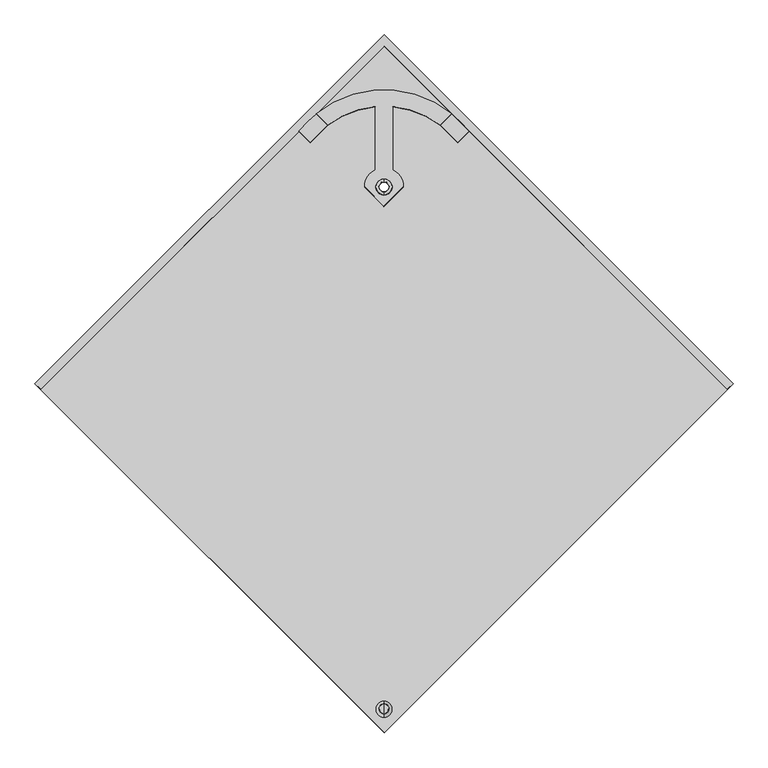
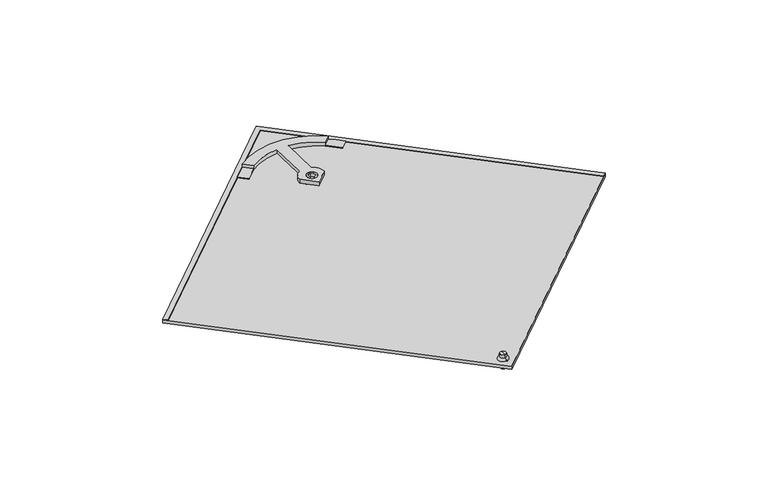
"""IFC4 building model written with IfcOpenShell, lengths in millimetres: proxy geometry, Roofing_Solar-Panels_SunStyle_Shingle-Sunstyle : Shingle Sunstyle - Black."""

from ifc_helpers import new_model, si_unit, point, frame, frame_2d, origin, place, context, project, spatial, polyline, circle_curve, ellipse_curve, trimmed, segment, composite_curve, outline, extrude, source, transform, mapped, element, save
from ifc_brep_helpers import plane_surface, cylinder_surface, revolved_surface, advanced_brep


def generic_models_2e27a9fd(model_context):
    return source(origin(), model_context, "Body", "SolidModel", [
        advanced_brep(
        [(-0.0003225, -496.9839711, 50.8520805), (-0.0003225, -483.6564991, 50.4055513), (-0.0003225, -484.393014, 28.4229328), (-0.0003225, -497.720486, 28.8694621), (-0.0003225, -502.4808867, 51.0362515), (-0.0003225, -478.1595835, 50.2213803), (-0.0003225, -497.4503018, 55.8664976), (-0.0003225, -482.8555807, 55.3775099), (-0.0003225, -489.8849219, 63.6215255), (-0.0003225, -482.5875613, 63.3770317), (-0.0003225, -497.1822824, 63.8660194), (-0.0003225, -491.05675, 28.6461975)],
        [
            (0, 1, circle_curve(frame((-0.0003225, -490.3202351, 50.6288159), z_axis=(0.0, -0.0334856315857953, -0.9994391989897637), x_axis=(0.0, 0.9994391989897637, -0.0334856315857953)), 6.6674751)),
            (1, 2),
            (2, 3, circle_curve(frame((-0.0003225, -491.05675, 28.6461975), z_axis=(0.0, 0.0334856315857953, 0.9994391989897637), x_axis=(0.0, 0.9994391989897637, -0.0334856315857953)), 6.6674751)),
            (3, 0),
            (1, 0, circle_curve(frame((-0.0003225, -490.3202351, 50.6288159), z_axis=(0.0, -0.0334856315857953, -0.9994391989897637), x_axis=(0.0, 0.9994391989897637, -0.0334856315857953)), 6.6674751)),
            (3, 2, circle_curve(frame((-0.0003225, -491.05675, 28.6461975), z_axis=(0.0, 0.0334856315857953, 0.9994391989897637), x_axis=(0.0, 0.9994391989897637, -0.0334856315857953)), 6.6674751)),
            (4, 5, circle_curve(frame((-0.0003225, -490.3202351, 50.6288159), z_axis=(0.0, -0.0334856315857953, -0.9994391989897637), x_axis=(0.0, 0.9994391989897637, -0.0334856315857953)), 12.1674751)),
            (5, 1),
            (0, 4),
            (5, 4, circle_curve(frame((-0.0003225, -490.3202351, 50.6288159), z_axis=(0.0, -0.0334856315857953, -0.9994391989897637), x_axis=(0.0, 0.9994391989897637, -0.0334856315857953)), 12.1674751)),
            (6, 7, circle_curve(frame((-0.0003225, -490.1529412, 55.6220038), z_axis=(0.0, -0.0334856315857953, -0.9994391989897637), x_axis=(0.0, 0.9994391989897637, -0.0334856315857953)), 7.3014552)),
            (7, 5, circle_curve(frame((-0.0003225, -483.2447474, 50.3065442), z_axis=(-1.0, 0.0, 0.0), x_axis=(0.0, -0.9998597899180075, 0.016745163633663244)), 5.0858769)),
            (4, 6, circle_curve(frame((-0.0003225, -497.4014264, 50.7808555), z_axis=(-1.0, 0.0, 0.0), x_axis=(0.0, 0.9987383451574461, -0.05021670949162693)), 5.0858769)),
            (7, 6, circle_curve(frame((-0.0003225, -490.1529412, 55.6220038), z_axis=(0.0, -0.0334856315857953, -0.9994391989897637), x_axis=(0.0, 0.9994391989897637, -0.0334856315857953)), 7.3014552)),
            (8, 9),
            (9, 10, circle_curve(frame((-0.0003225, -489.8849219, 63.6215255), z_axis=(0.0, 0.0334856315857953, 0.9994391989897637), x_axis=(0.0, 0.9994391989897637, -0.0334856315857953)), 7.3014552)),
            (10, 8),
            (10, 9, circle_curve(frame((-0.0003225, -489.8849219, 63.6215255), z_axis=(0.0, 0.0334856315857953, 0.9994391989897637), x_axis=(0.0, 0.9994391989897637, -0.0334856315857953)), 7.3014552)),
            (2, 11),
            (11, 3),
            (9, 7),
            (6, 10),
        ],
        [
            cylinder_surface(frame((-0.0003225, -489.8849219, 63.6215255), z_axis=(0.0, 0.0334856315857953, 0.9994391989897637), x_axis=(0.0, 0.9994391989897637, -0.0334856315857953)), 6.6674751),
            plane_surface(frame((-0.0003225, -490.3202351, 50.6288159), z_axis=(0.0, -0.0334856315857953, -0.9994391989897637), x_axis=(0.0, 0.9994391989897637, -0.0334856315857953))),
            revolved_surface(trimmed(ellipse_curve(frame((-0.0003225, -483.2447474, 50.3065442), z_axis=(1.0, 0.0, 0.0), x_axis=(0.0, -0.9998597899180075, 0.016745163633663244)), 5.0858769, 5.0858769), [point((-0.0003225, -478.1595835, 50.2213803))], [point((-0.0003225, -482.8555807, 55.3775099))], True, "CARTESIAN"), (-0.0003225, -489.8849219, 63.6215255), (0.0, 0.0334856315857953, 0.9994391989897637)),
            plane_surface(frame((-0.0003225, -489.8849219, 63.6215255), z_axis=(0.0, 0.0334856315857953, 0.9994391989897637), x_axis=(0.0, 0.9994391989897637, -0.0334856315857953))),
            plane_surface(frame((-0.0003225, -491.05675, 28.6461975), z_axis=(0.0, -0.0334856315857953, -0.9994391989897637), x_axis=(0.0, 0.9994391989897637, -0.0334856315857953))),
            cylinder_surface(frame((-0.0003225, -489.8849219, 63.6215255), z_axis=(0.0, 0.0334856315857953, 0.9994391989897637), x_axis=(0.0, 0.9994391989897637, -0.0334856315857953)), 7.3014552),
        ],
        [
            (0, [[1, 2, 3, 4]]),
            (0, [[5, -4, 6, -2]]),
            (1, [[7, 8, -1, 9]]),
            (1, [[10, -9, -5, -8]]),
            (2, [[11, 12, -7, 13]]),
            (2, [[14, -13, -10, -12]]),
            (3, [[15, 16, 17]]),
            (3, [[-17, 18, -15]]),
            (4, [[-3, 19, 20]]),
            (4, [[-6, -20, -19]]),
            (5, [[-16, 21, -11, 22]]),
            (5, [[-18, -22, -14, -21]]),
        ],
    ),
        advanced_brep(
        [(-0.0003225, 290.0805123, 34.3937139), (-0.0003225, 305.4068635, 33.8802134), (-0.0003225, 309.9043395, 33.729528), (-0.0003225, 285.5830363, 34.5443992), (-0.0003225, 289.5447426, 18.4026867), (-0.0003225, 304.871093, 17.8891862), (-0.0003225, 285.0472662, 18.553372), (-0.0003225, 309.3685694, 17.7385008)],
        [
            (0, 1, circle_curve(frame((-0.0003225, 297.7436879, 34.1369636), z_axis=(0.0, -0.033485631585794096, -0.9994391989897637), x_axis=(0.0, 0.9994391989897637, -0.033485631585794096)), 7.6674755)),
            (1, 2),
            (2, 3, circle_curve(frame((-0.0003225, 297.7436879, 34.1369636), z_axis=(0.0, 0.033485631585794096, 0.9994391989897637), x_axis=(0.0, 0.9994391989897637, -0.033485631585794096)), 12.1674751)),
            (3, 0),
            (1, 0, circle_curve(frame((-0.0003225, 297.7436879, 34.1369636), z_axis=(0.0, -0.033485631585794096, -0.9994391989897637), x_axis=(0.0, 0.9994391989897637, -0.033485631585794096)), 7.6674755)),
            (3, 2, circle_curve(frame((-0.0003225, 297.7436879, 34.1369636), z_axis=(0.0, 0.033485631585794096, 0.9994391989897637), x_axis=(0.0, 0.9994391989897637, -0.033485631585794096)), 12.1674751)),
            (4, 5, circle_curve(frame((-0.0003225, 297.2079178, 18.1459364), z_axis=(0.0, -0.033485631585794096, -0.9994391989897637), x_axis=(0.0, 0.9994391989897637, -0.033485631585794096)), 7.6674751)),
            (5, 1),
            (0, 4),
            (5, 4, circle_curve(frame((-0.0003225, 297.2079178, 18.1459364), z_axis=(0.0, -0.033485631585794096, -0.9994391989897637), x_axis=(0.0, 0.9994391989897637, -0.033485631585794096)), 7.6674751)),
            (6, 7, circle_curve(frame((-0.0003225, 297.2079178, 18.1459364), z_axis=(0.0, -0.033485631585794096, -0.9994391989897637), x_axis=(0.0, 0.9994391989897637, -0.033485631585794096)), 12.1674751)),
            (7, 5),
            (4, 6),
            (7, 6, circle_curve(frame((-0.0003225, 297.2079178, 18.1459364), z_axis=(0.0, -0.033485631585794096, -0.9994391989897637), x_axis=(0.0, 0.9994391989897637, -0.033485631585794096)), 12.1674751)),
            (2, 7),
            (6, 3),
        ],
        [
            plane_surface(frame((-0.0003225, 297.7436879, 34.1369636), z_axis=(0.0, 0.033485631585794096, 0.9994391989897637), x_axis=(0.0, 0.9994391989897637, -0.033485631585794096))),
            revolved_surface(polyline([(-0.0003225, 305.4068630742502, 33.880213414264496), (-0.0003225, 304.8710929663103, 17.88918615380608)]), (-0.0003225, 297.7436879, 34.1369636), (0.0, 0.033485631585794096, 0.9994391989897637)),
            plane_surface(frame((-0.0003225, 297.2079178, 18.1459364), z_axis=(0.0, -0.033485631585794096, -0.9994391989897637), x_axis=(0.0, 0.9994391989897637, -0.033485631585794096))),
            cylinder_surface(frame((-0.0003225, 297.7436879, 34.1369636), z_axis=(0.0, 0.033485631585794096, 0.9994391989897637), x_axis=(0.0, 0.9994391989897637, -0.033485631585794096)), 12.1674751),
        ],
        [
            (0, [[1, 2, 3, 4]]),
            (0, [[5, -4, 6, -2]]),
            (1, [[7, 8, -1, 9]]),
            (1, [[10, -9, -5, -8]]),
            (2, [[11, 12, -7, 13]]),
            (2, [[14, -13, -10, -12]]),
            (3, [[-3, 15, -11, 16]]),
            (3, [[-6, -16, -14, -15]]),
        ],
    ),
        extrude(outline(polyline([(0.0, -11.9999999), (0.0, 0.0), (733.0016898, 1e-07), (733.1044713, 733.0016827), (745.1044711, 733.0000001), (745.0000074, -12.0), (0.0, -11.9999999)])), frame((518.346803, -7.6013186, 34.3617601), z_axis=(0.0, 0.03348563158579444, 0.9994391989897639), x_axis=(-0.707156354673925, 0.7066606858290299, -0.023676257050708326)), (0.0, 0.0, 1.0), 1.5),
        extrude(outline(polyline([(870.0507577, 0.0), (870.1552215, -745.0), (125.1552142, -745.0), (125.0507504, 0.0), (870.0507577, 0.0)]), holes=[composite_curve([segment(trimmed(circle_curve(frame_2d((150.1563009, -719.9949513)), 8.0), [point((144.4990501, -714.3384937))], [point((155.8135517, -725.6514089))], True, "CARTESIAN"), True, "CONTINUOUS"), segment(trimmed(circle_curve(frame_2d((150.1563009, -719.9949513)), 8.0), [point((155.8135517, -725.6514089))], [point((144.4990501, -714.3384937))], True, "CARTESIAN"), True, "CONTINUOUS")], self_intersect=False), composite_curve([segment(trimmed(circle_curve(frame_2d((707.2649775, -162.8081515)), 12.0), [point((698.7791012, -154.3234651))], [point((715.7508537, -171.292838))], True, "CARTESIAN"), True, "CONTINUOUS"), segment(trimmed(circle_curve(frame_2d((707.2649775, -162.8081515)), 12.0), [point((715.7508537, -171.292838))], [point((698.7791012, -154.3234651))], True, "CARTESIAN"), True, "CONTINUOUS")], self_intersect=False)]), frame((-615.2619222, -87.7397925, 29.5425449), z_axis=(0.0, 0.03348563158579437, 0.9994391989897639), x_axis=(0.7071563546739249, 0.7066606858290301, -0.023676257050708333)), (0.0, 0.0, 1.0), 7.5),
        advanced_brep(
        [(-102.0278943, 408.1366592, 30.438311), (-84.9447185, 391.0630637, 31.010352), (-13.3003225, 418.9432411, 30.0762428), (-13.3003225, 324.104166, 33.2537711), (-29.3897506, 297.9110691, 34.1313556), (-0.0003225, 268.5381226, 35.1154792), (29.3891055, 297.9110691, 34.1313556), (13.2996775, 324.104166, 33.2537711), (13.2996775, 418.9432411, 30.0762428), (84.9440735, 391.0630637, 31.010352), (102.0272493, 408.1366592, 30.438311), (-12.0003225, 297.9110691, 34.1313556), (11.9996775, 297.9110691, 34.1313556), (-102.0278943, 407.8018028, 20.4439191), (102.0272493, 407.8018028, 20.4439191), (114.2506466, 396.7715218, 20.8134822), (128.9463908, 382.0860783, 21.3055095), (111.2687213, 364.4183224, 21.8974574), (84.9428758, 390.7294044, 21.0159199), (13.2996775, 418.6083848, 20.0818508), (13.2996775, 323.7693097, 23.2593791), (29.3891055, 297.5762128, 24.1369636), (-0.0003225, 268.2032663, 25.1210872), (-29.3897506, 297.5762128, 24.1369636), (-13.3003225, 323.7693097, 23.2593791), (-13.3003225, 418.6083848, 20.0818508), (-84.9447185, 390.7282073, 21.01596), (-111.2693664, 364.4183224, 21.8974574), (-128.9470359, 382.0860783, 21.3055095), (-114.2512916, 396.7715218, 20.8134822), (-12.0003225, 297.5762128, 24.1369636), (11.9996775, 297.5762128, 24.1369636), (102.0272493, 407.8855169, 22.9425171), (-102.0278943, 407.8855169, 22.9425171), (128.9463908, 382.1697923, 23.8041075), (114.2506466, 396.8552359, 23.3120802), (84.9440735, 390.8119214, 23.514558), (111.2687213, 364.5020365, 24.3960554), (-128.9470359, 382.1697923, 23.8041075), (-111.2693664, 364.5020365, 24.3960554), (-84.9435208, 390.8131184, 23.5145179), (-114.2512916, 396.8552359, 23.3120802)],
        [
            (0, 1),
            (1, 2, circle_curve(frame((-0.0003225, 278.9141404, 34.7678367), z_axis=(0.0, -0.033485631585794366, -0.9994391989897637), x_axis=(1.0, 0.0, 0.0)), 140.737522)),
            (2, 3),
            (3, 4, circle_curve(frame((-0.0003225, 297.9110691, 34.1313556), z_axis=(0.0, 0.033485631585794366, 0.9994391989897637), x_axis=(1.0, 0.0, 0.0)), 29.3894281)),
            (4, 5),
            (5, 6),
            (6, 7, circle_curve(frame((-0.0003225, 297.9110691, 34.1313556), z_axis=(0.0, 0.033485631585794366, 0.9994391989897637), x_axis=(1.0, 0.0, 0.0)), 29.3894281)),
            (7, 8),
            (8, 9, circle_curve(frame((-0.0003225, 278.9141404, 34.7678367), z_axis=(0.0, -0.033485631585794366, -0.9994391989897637), x_axis=(1.0, 0.0, 0.0)), 140.737522)),
            (9, 10),
            (10, 0, circle_curve(frame((-0.0003225, 282.9194811, 34.6336401), z_axis=(0.0, 0.033485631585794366, 0.9994391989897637), x_axis=(1.0, 0.0, 0.0)), 161.57527)),
            (11, 12, circle_curve(frame((-0.0003225, 297.9110691, 34.1313556), z_axis=(0.0, -0.033485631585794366, -0.9994391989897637), x_axis=(1.0, 0.0, 0.0)), 12.0)),
            (12, 11, circle_curve(frame((-0.0003225, 297.9110691, 34.1313556), z_axis=(0.0, -0.033485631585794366, -0.9994391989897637), x_axis=(1.0, 0.0, 0.0)), 12.0)),
            (13, 14, circle_curve(frame((-0.0003225, 282.5846248, 24.6392481), z_axis=(0.0, -0.033485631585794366, -0.9994391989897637), x_axis=(1.0, 0.0, 0.0)), 161.57527)),
            (14, 15, circle_curve(frame((-0.0003225, 282.5846248, 24.6392481), z_axis=(0.0, -0.033485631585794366, -0.9994391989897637), x_axis=(1.0, 0.0, 0.0)), 161.57527)),
            (15, 16),
            (16, 17),
            (17, 18),
            (18, 19, circle_curve(frame((-0.0003225, 278.5792841, 24.7734447), z_axis=(0.0, 0.033485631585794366, 0.9994391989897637), x_axis=(1.0, 0.0, 0.0)), 140.737522)),
            (19, 20),
            (20, 21, circle_curve(frame((-0.0003225, 297.5762128, 24.1369636), z_axis=(0.0, -0.033485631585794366, -0.9994391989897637), x_axis=(1.0, 0.0, 0.0)), 29.3894281)),
            (21, 22),
            (22, 23),
            (23, 24, circle_curve(frame((-0.0003225, 297.5762128, 24.1369636), z_axis=(0.0, -0.033485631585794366, -0.9994391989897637), x_axis=(1.0, 0.0, 0.0)), 29.3894281)),
            (24, 25),
            (25, 26, circle_curve(frame((-0.0003225, 278.5792841, 24.7734447), z_axis=(0.0, 0.033485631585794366, 0.9994391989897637), x_axis=(1.0, 0.0, 0.0)), 140.737522)),
            (26, 27),
            (27, 28),
            (28, 29),
            (29, 13, circle_curve(frame((-0.0003225, 282.5846248, 24.6392481), z_axis=(0.0, -0.033485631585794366, -0.9994391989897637), x_axis=(-1.0, 0.0, 0.0)), 161.57527)),
            (30, 31, circle_curve(frame((-0.0003225, 297.5762128, 24.1369636), z_axis=(0.0, 0.033485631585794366, 0.9994391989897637), x_axis=(1.0, 0.0, 0.0)), 12.0)),
            (31, 30, circle_curve(frame((-0.0003225, 297.5762128, 24.1369636), z_axis=(0.0, 0.033485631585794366, 0.9994391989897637), x_axis=(1.0, 0.0, 0.0)), 12.0)),
            (2, 25),
            (24, 3),
            (23, 4),
            (22, 5),
            (21, 6),
            (20, 7),
            (19, 8),
            (10, 32),
            (32, 14),
            (13, 33),
            (33, 0),
            (11, 30),
            (31, 12),
            (34, 35),
            (35, 32, circle_curve(frame((-0.0003225, 282.6683389, 27.1378461), z_axis=(0.0, 0.033485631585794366, 0.9994391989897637), x_axis=(1.0, 0.0, 0.0)), 161.57527)),
            (32, 36),
            (36, 37),
            (37, 34),
            (38, 39),
            (39, 40),
            (40, 33),
            (33, 41, circle_curve(frame((-0.0003225, 282.6683389, 27.1378461), z_axis=(0.0, 0.033485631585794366, 0.9994391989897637), x_axis=(-1.0, 0.0, 0.0)), 161.57527)),
            (41, 38),
            (34, 16),
            (15, 35),
            (37, 17),
            (36, 18),
            (38, 28),
            (27, 39),
            (26, 40),
            (29, 41),
            (40, 1),
            (9, 36),
        ],
        [
            plane_surface(frame((-102.0278943, 408.1366592, 30.438311), z_axis=(0.0, 0.03348563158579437, 0.9994391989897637), x_axis=(0.7071067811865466, -0.7067102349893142, 0.02367791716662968))),
            plane_surface(frame((-102.0278943, 407.8018028, 20.4439191), z_axis=(0.0, -0.03348563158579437, -0.9994391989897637), x_axis=(-0.7071067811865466, 0.7067102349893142, -0.02367791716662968))),
            plane_surface(frame((-13.3003225, 418.9432411, 30.0762428), z_axis=(-1.0000000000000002, 0.0, 0.0), x_axis=(0.0, -0.03348563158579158, -0.9994391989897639))),
            cylinder_surface(frame((-0.0003225, 297.5762128, 24.1369636), z_axis=(0.0, 0.033485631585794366, 0.9994391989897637), x_axis=(1.0, 0.0, 0.0)), 29.3894281),
            plane_surface(frame((-29.3897506, 297.9110691, 34.1313556), z_axis=(-0.707106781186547, -0.706710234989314, 0.023677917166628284), x_axis=(0.0, -0.03348563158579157, -0.9994391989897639))),
            plane_surface(frame((-0.0003225, 268.5381226, 35.1154792), z_axis=(0.707106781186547, -0.7067102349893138, 0.02367791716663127), x_axis=(0.0, -0.03348563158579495, -0.9994391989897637))),
            plane_surface(frame((13.2996775, 324.104166, 33.2537711), z_axis=(1.0000000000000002, 0.0, 0.0), x_axis=(0.0, -0.03348563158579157, -0.9994391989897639))),
            cylinder_surface(frame((-0.0003225, 282.5846248, 24.6392481), z_axis=(0.0, 0.033485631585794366, 0.9994391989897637), x_axis=(1.0, 0.0, 0.0)), 161.57527),
            revolved_surface(polyline([(11.9996775, 297.5762128, 24.1369636), (11.9996775, 297.9110691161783, 34.131355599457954)]), (-0.0003225, 297.5762128, 24.1369636), (0.0, -0.033485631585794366, -0.9994391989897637)),
            plane_surface(frame((128.9463908, 382.1697923, 23.8041075), z_axis=(0.0, 0.03348563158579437, 0.9994391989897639), x_axis=(-0.7071563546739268, 0.7066606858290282, -0.02367625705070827))),
            plane_surface(frame((128.9463908, 382.1697923, 23.8041075), z_axis=(0.7070572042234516, 0.7067597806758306, -0.023679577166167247), x_axis=(0.0, -0.03348563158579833, -0.9994391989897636))),
            plane_surface(frame((111.2687213, 364.5020365, 24.3960554), z_axis=(0.7071067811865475, -0.7067102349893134, 0.02367791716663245), x_axis=(0.0, -0.03348563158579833, -0.9994391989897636))),
            plane_surface(frame((84.9428758, 390.8131184, 23.5145179), z_axis=(-0.7071067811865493, -0.7067102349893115, 0.023677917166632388), x_axis=(0.0, -0.03348563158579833, -0.9994391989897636))),
            plane_surface(frame((-128.9470359, 382.1697923, 23.8041075), z_axis=(-0.7071067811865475, -0.7067102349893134, 0.02367791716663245), x_axis=(0.0, -0.03348563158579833, -0.9994391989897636))),
            plane_surface(frame((-111.2693664, 364.5020365, 24.3960554), z_axis=(0.7071067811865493, -0.7067102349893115, 0.023677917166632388), x_axis=(0.0, -0.03348563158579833, -0.9994391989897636))),
            cylinder_surface(frame((-0.0003225, 282.5846248, 24.6392481), z_axis=(0.0, 0.033485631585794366, 0.9994391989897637), x_axis=(-1.0, 0.0, 0.0)), 161.57527),
            plane_surface(frame((-114.2512916, 396.8552359, 23.3120802), z_axis=(-0.7070572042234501, 0.7067597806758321, -0.0236795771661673), x_axis=(0.0, -0.03348563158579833, -0.9994391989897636))),
            plane_surface(frame((-102.0278943, 408.1366592, 30.438311), z_axis=(-0.7071067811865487, -0.7067102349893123, 0.02367791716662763), x_axis=(0.0, -0.03348563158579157, -0.9994391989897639))),
            plane_surface(frame((84.9440735, 391.0630637, 31.010352), z_axis=(0.7071067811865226, -0.7067102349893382, 0.023677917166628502), x_axis=(0.0, -0.03348563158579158, -0.9994391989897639))),
            revolved_surface(polyline([(140.7371995, 278.5792841, 24.7734447), (140.7371995, 278.9141404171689, 34.76783672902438)]), (-0.0003225, 278.5792841, 24.7734447), (0.0, -0.033485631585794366, -0.9994391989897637)),
        ],
        [
            (0, [[1, 2, 3, 4, 5, 6, 7, 8, 9, 10, 11], [12, 13]]),
            (1, [[14, 15, 16, 17, 18, 19, 20, 21, 22, 23, 24, 25, 26, 27, 28, 29, 30], [31, 32]]),
            (2, [[-3, 33, -25, 34]]),
            (3, [[-4, -34, -24, 35]]),
            (4, [[-5, -35, -23, 36]]),
            (5, [[-6, -36, -22, 37]]),
            (3, [[-7, -37, -21, 38]]),
            (6, [[-8, -38, -20, 39]]),
            (7, [[-11, 40, 41, -14, 42, 43]]),
            (8, [[-12, 44, -32, 45]]),
            (8, [[-13, -45, -31, -44]]),
            (9, [[46, 47, 48, 49, 50]]),
            (9, [[51, 52, 53, 54, 55]]),
            (10, [[-46, 56, -16, 57]]),
            (11, [[-50, 58, -17, -56]]),
            (7, [[-47, -57, -15, -41]]),
            (12, [[-49, 59, -18, -58]]),
            (13, [[-51, 60, -28, 61]]),
            (14, [[-52, -61, -27, 62]]),
            (15, [[-54, -42, -30, 63]]),
            (16, [[-55, -63, -29, -60]]),
            (17, [[-1, -43, -53, 64]]),
            (18, [[-10, 65, -48, -40]]),
            (19, [[-2, -64, -62, -26, -33]]),
            (19, [[-9, -39, -19, -59, -65]]),
        ],
    ),
        extrude(outline(polyline([(100.0, 0.0), (100.0, -100.0), (0.0, -100.0), (0.0, 0.0), (100.0, 0.0)])), frame((-236.5865148, 179.9879831, 16.5702363), z_axis=(0.0, 0.03348563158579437, 0.9994391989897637), x_axis=(0.7071067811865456, -0.7067102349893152, 0.023677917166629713)), (0.0, 0.0, 1.0), 5.5),
        advanced_brep(
        [(0.0, 290.6377702, 20.2441668), (0.0, 305.9705711, 19.9873805), (0.0, 310.4699398, 19.9120273), (0.0, 286.1384015, 20.31952), (0.0, 290.369848, 4.2464102), (0.0, 305.7026481, 3.9896239), (0.0, 285.8704789, 4.3217634), (0.0, 310.2020171, 3.9142707)],
        [
            (0, 1, circle_curve(frame((0.0, 298.3041706, 20.1157737), z_axis=(0.0, -0.016745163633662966, -0.9998597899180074), x_axis=(0.0, 0.9998597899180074, -0.016745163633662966)), 7.6674755)),
            (1, 2),
            (2, 3, circle_curve(frame((0.0, 298.3041706, 20.1157737), z_axis=(0.0, 0.016745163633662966, 0.9998597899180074), x_axis=(0.0, 0.9998597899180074, -0.016745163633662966)), 12.1674751)),
            (3, 0),
            (1, 0, circle_curve(frame((0.0, 298.3041706, 20.1157737), z_axis=(0.0, -0.016745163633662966, -0.9998597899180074), x_axis=(0.0, 0.9998597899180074, -0.016745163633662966)), 7.6674755)),
            (3, 2, circle_curve(frame((0.0, 298.3041706, 20.1157737), z_axis=(0.0, 0.016745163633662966, 0.9998597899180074), x_axis=(0.0, 0.9998597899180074, -0.016745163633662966)), 12.1674751)),
            (4, 5, circle_curve(frame((0.0, 298.036248, 4.118017), z_axis=(0.0, -0.016745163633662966, -0.9998597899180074), x_axis=(0.0, 0.9998597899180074, -0.016745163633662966)), 7.6674751)),
            (5, 1),
            (0, 4),
            (5, 4, circle_curve(frame((0.0, 298.036248, 4.118017), z_axis=(0.0, -0.016745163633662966, -0.9998597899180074), x_axis=(0.0, 0.9998597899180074, -0.016745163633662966)), 7.6674751)),
            (6, 7, circle_curve(frame((0.0, 298.036248, 4.118017), z_axis=(0.0, -0.016745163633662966, -0.9998597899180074), x_axis=(0.0, 0.9998597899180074, -0.016745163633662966)), 12.1674751)),
            (7, 5),
            (4, 6),
            (7, 6, circle_curve(frame((0.0, 298.036248, 4.118017), z_axis=(0.0, -0.016745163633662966, -0.9998597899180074), x_axis=(0.0, 0.9998597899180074, -0.016745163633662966)), 12.1674751)),
            (2, 7),
            (6, 3),
        ],
        [
            plane_surface(frame((0.0, 298.3041706, 20.1157737), z_axis=(0.0, 0.016745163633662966, 0.9998597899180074), x_axis=(0.0, 0.9998597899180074, -0.016745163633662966))),
            revolved_surface(polyline([(0.0, 305.97057064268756, 19.987380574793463), (0.0, 305.7026480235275, 3.989623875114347)]), (0.0, 298.3041706, 20.1157737), (0.0, 0.016745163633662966, 0.9998597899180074)),
            plane_surface(frame((0.0, 298.036248, 4.118017), z_axis=(0.0, -0.016745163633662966, -0.9998597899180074), x_axis=(0.0, 0.9998597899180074, -0.016745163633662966))),
            cylinder_surface(frame((0.0, 298.3041706, 20.1157737), z_axis=(0.0, 0.016745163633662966, 0.9998597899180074), x_axis=(0.0, 0.9998597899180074, -0.016745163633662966)), 12.1674751),
        ],
        [
            (0, [[1, 2, 3, 4]]),
            (0, [[5, -4, 6, -2]]),
            (1, [[7, 8, -1, 9]]),
            (1, [[10, -9, -5, -8]]),
            (2, [[11, 12, -7, 13]]),
            (2, [[14, -13, -10, -12]]),
            (3, [[-3, 15, -11, 16]]),
            (3, [[-6, -16, -14, -15]]),
        ],
    ),
    ])


if __name__ == "__main__":
    model = new_model("IFC4")
    model_context = context("Model", 3, world=origin())
    ifc_project = project(units=[si_unit("LENGTHUNIT", "METRE", prefix="MILLI")], contexts=[model_context])
    site = spatial("IfcSite", under=ifc_project)
    building = spatial("IfcBuilding", under=site)
    placement = place(None, origin())
    generic_models_shape = generic_models_2e27a9fd(model_context)
    element("IfcBuildingElementProxy", 1, Name="Roofing_Solar-Panels_SunStyle_Shingle-Sunstyle : Shingle Sunstyle - Black", ObjectType="Roofing_Solar-Panels_SunStyle_Shingle-Sunstyle : Shingle Sunstyle - Black", at=placement, inside=building, context=model_context, shape_type="MappedRepresentation", body=[
        mapped(generic_models_shape, transform((0.0, 0.0, 0.0), x_axis=(1.0, 0.0, 0.0), y_axis=(0.0, 1.0, 0.0), z_axis=(0.0, 0.0, 1.0))),
    ])
    save(model, "model.ifc")
